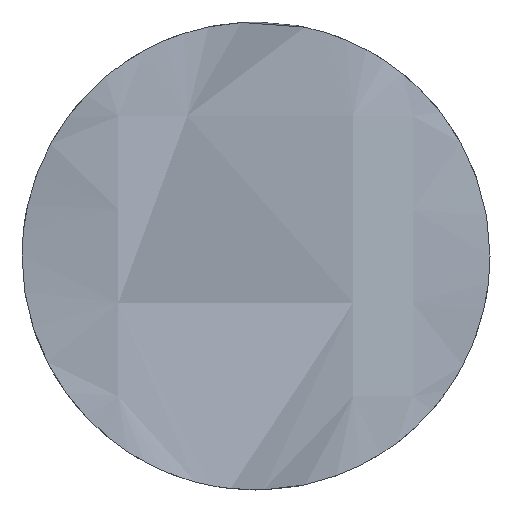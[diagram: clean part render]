
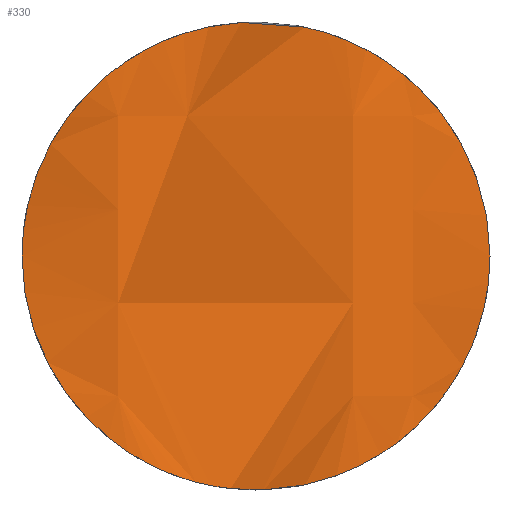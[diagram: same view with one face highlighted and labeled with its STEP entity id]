
A CAD part, front view. The second image highlights one B-rep face of the part: STEP entity #330.
In plain terms, the highlighted face is a extrusion surface.
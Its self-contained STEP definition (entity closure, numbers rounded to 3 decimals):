
#18=CARTESIAN_POINT('',(-1.01,-13.94,0.));
#19=CARTESIAN_POINT('',(-1.01,-13.94,-0.041));
#20=CARTESIAN_POINT('',(-1.005,-13.941,
-0.123));
#21=CARTESIAN_POINT('',(-0.982,-13.948,
-0.247));
#22=CARTESIAN_POINT('',(-0.944,-13.957,
-0.368));
#23=CARTESIAN_POINT('',(-0.891,-13.968,
-0.481));
#24=CARTESIAN_POINT('',(-0.828,-13.977,
-0.582));
#25=CARTESIAN_POINT('',(-0.757,-13.982,
-0.671));
#26=CARTESIAN_POINT('',(-0.683,-13.98,
-0.746));
#27=CARTESIAN_POINT('',(-0.608,-13.97,
-0.808));
#28=CARTESIAN_POINT('',(-0.536,-13.951,-0.858));
#29=CARTESIAN_POINT('',(-0.463,-13.924,
-0.899));
#30=CARTESIAN_POINT('',(-0.389,-13.884,
-0.933));
#31=CARTESIAN_POINT('',(-0.319,-13.835,
-0.959));
#32=CARTESIAN_POINT('',(-0.252,-13.778,
-0.979));
#33=CARTESIAN_POINT('',(-0.189,-13.715,
-0.993));
#34=CARTESIAN_POINT('',(-0.128,-13.644,
-1.003));
#35=CARTESIAN_POINT('',(-0.064,-13.562,
-1.009));
#36=CARTESIAN_POINT('',(0.006,-13.466,-1.011));
#37=CARTESIAN_POINT('',(0.082,-13.355,-1.008));
#38=CARTESIAN_POINT('',(0.16,-13.243,
-0.998));
#39=CARTESIAN_POINT('',(0.241,-13.135,
-0.982));
#40=CARTESIAN_POINT('',(0.321,-13.039,
-0.959));
#41=CARTESIAN_POINT('',(0.402,-12.958,
-0.928));
#42=CARTESIAN_POINT('',(0.479,-12.895,
-0.89));
#43=CARTESIAN_POINT('',(0.551,-12.847,
-0.848));
#44=CARTESIAN_POINT('',(0.621,-12.811,
-0.798));
#45=CARTESIAN_POINT('',(0.693,-12.783,
-0.737));
#46=CARTESIAN_POINT('',(0.763,-12.764,
-0.664));
#47=CARTESIAN_POINT('',(0.83,-12.753,
-0.579));
#48=CARTESIAN_POINT('',(0.891,-12.748,
-0.481));
#49=CARTESIAN_POINT('',(0.942,-12.748,
-0.371));
#50=CARTESIAN_POINT('',(0.981,-12.75,
-0.252));
#51=CARTESIAN_POINT('',(1.005,-12.751,-0.127));
#52=CARTESIAN_POINT('',(1.01,-12.752,-0.042));
#53=CARTESIAN_POINT('',(1.01,-12.752,0.));
#59=CARTESIAN_POINT('',(1.01,-12.752,0.));
#60=CARTESIAN_POINT('',(1.01,-12.752,0.043));
#61=CARTESIAN_POINT('',(1.005,-12.751,0.127));
#62=CARTESIAN_POINT('',(0.981,-12.75,0.253));
#63=CARTESIAN_POINT('',(0.942,-12.748,0.372));
#64=CARTESIAN_POINT('',(0.89,-12.748,0.482));
#65=CARTESIAN_POINT('',(0.83,-12.753,0.58));
#66=CARTESIAN_POINT('',(0.762,-12.764,0.666));
#67=CARTESIAN_POINT('',(0.692,-12.783,0.738));
#68=CARTESIAN_POINT('',(0.62,-12.812,0.799));
#69=CARTESIAN_POINT('',(0.55,-12.848,0.849));
#70=CARTESIAN_POINT('',(0.477,-12.896,0.891));
#71=CARTESIAN_POINT('',(0.399,-12.961,0.929));
#72=CARTESIAN_POINT('',(0.319,-13.042,0.96));
#73=CARTESIAN_POINT('',(0.238,-13.138,0.983));
#74=CARTESIAN_POINT('',(0.159,-13.245,0.998));
#75=CARTESIAN_POINT('',(0.082,-13.355,1.008));
#76=CARTESIAN_POINT('',(0.007,-13.463,1.011));
#77=CARTESIAN_POINT('',(-0.061,-13.559,1.009));
#78=CARTESIAN_POINT('',(-0.125,-13.641,1.003));
#79=CARTESIAN_POINT('',(-0.187,-13.712,
0.993));
#80=CARTESIAN_POINT('',(-0.25,-13.776,
0.979));
#81=CARTESIAN_POINT('',(-0.316,-13.834,
0.96));
#82=CARTESIAN_POINT('',(-0.387,-13.883,
0.934));
#83=CARTESIAN_POINT('',(-0.461,-13.923,
0.9));
#84=CARTESIAN_POINT('',(-0.534,-13.951,
0.859));
#85=CARTESIAN_POINT('',(-0.607,-13.969,
0.809));
#86=CARTESIAN_POINT('',(-0.682,-13.98,
0.747));
#87=CARTESIAN_POINT('',(-0.756,-13.982,
0.672));
#88=CARTESIAN_POINT('',(-0.827,-13.977,
0.583));
#89=CARTESIAN_POINT('',(-0.89,-13.968,
0.482));
#90=CARTESIAN_POINT('',(-0.943,-13.957,
0.369));
#91=CARTESIAN_POINT('',(-0.982,-13.948,
0.248));
#92=CARTESIAN_POINT('',(-1.005,-13.941,0.123));
#93=CARTESIAN_POINT('',(-1.01,-13.94,0.041));
#94=CARTESIAN_POINT('',(-1.01,-13.94,0.));
#295=VERTEX_POINT('',#18);
#296=VERTEX_POINT('',#53);
#313=CARTESIAN_POINT('',(-1.034,-13.933,-9.081));
#314=CARTESIAN_POINT('',(-1.026,-13.935,-9.081));
#315=CARTESIAN_POINT('',(-0.692,-14.035,-9.081));
#316=CARTESIAN_POINT('',(-0.129,-13.845,-9.081));
#317=CARTESIAN_POINT('',(0.239,-12.962,-9.081));
#318=CARTESIAN_POINT('',(0.762,-12.726,-9.081));
#319=CARTESIAN_POINT('',(1.027,-12.754,-9.081));
#320=CARTESIAN_POINT('',(1.036,-12.755,-9.081));
#322=DIRECTION('',(0.,0.,1.));
#323=VECTOR('',#322,1.);
#324=SURFACE_OF_LINEAR_EXTRUSION('',#321,#323);
#325=ORIENTED_EDGE('',*,*,#302,.F.);
#327=ORIENTED_EDGE('',*,*,#326,.F.);
#328=EDGE_LOOP('',(#325,#327));
#329=FACE_OUTER_BOUND('',#328,.F.);
#54=B_SPLINE_CURVE_WITH_KNOTS('',3,(#18,#19,#20,#21,#22,#23,#24,#25,#26,#27,#28,
#29,#30,#31,#32,#33,#34,#35,#36,#37,#38,#39,#40,#41,#42,#43,#44,#45,#46,#47,#48,
#49,#50,#51,#52,#53),.UNSPECIFIED.,.F.,.F.,(4,1,1,1,1,1,1,1,1,1,1,1,1,1,1,1,1,1,
1,1,1,1,1,1,1,1,1,1,1,1,1,1,1,4),(0.,0.03,0.061,
0.091,0.121,0.152,0.182,
0.212,0.242,0.273,0.303,
0.333,0.364,0.394,0.424,
0.455,0.485,0.515,0.545,
0.576,0.606,0.636,0.667,
0.697,0.727,0.758,0.788,
0.818,0.848,0.879,0.909,
0.939,0.97,1.),.UNSPECIFIED.);
#95=B_SPLINE_CURVE_WITH_KNOTS('',3,(#59,#60,#61,#62,#63,#64,#65,#66,#67,#68,#69,
#70,#71,#72,#73,#74,#75,#76,#77,#78,#79,#80,#81,#82,#83,#84,#85,#86,#87,#88,#89,
#90,#91,#92,#93,#94),.UNSPECIFIED.,.F.,.F.,(4,1,1,1,1,1,1,1,1,1,1,1,1,1,1,1,1,1,
1,1,1,1,1,1,1,1,1,1,1,1,1,1,1,4),(0.,0.03,0.061,
0.091,0.121,0.152,0.182,
0.212,0.242,0.273,0.303,
0.333,0.364,0.394,0.424,
0.455,0.485,0.515,0.545,
0.576,0.606,0.636,0.667,
0.697,0.727,0.758,0.788,
0.818,0.848,0.879,0.909,
0.939,0.97,1.),.UNSPECIFIED.);
#302=EDGE_CURVE('',#295,#296,#54,.T.);
#321=B_SPLINE_CURVE_WITH_KNOTS('',3,(#313,#314,#315,#316,#317,#318,#319,#320),
.UNSPECIFIED.,.F.,.F.,(4,1,1,1,1,4),(0.,0.007,0.299,
0.744,0.992,1.),.UNSPECIFIED.);
#326=EDGE_CURVE('',#296,#295,#95,.T.);
#330=ADVANCED_FACE('',(#329),#324,.T.);
